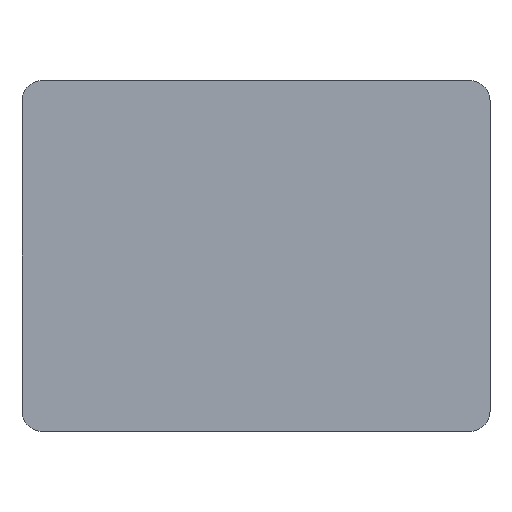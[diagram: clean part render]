
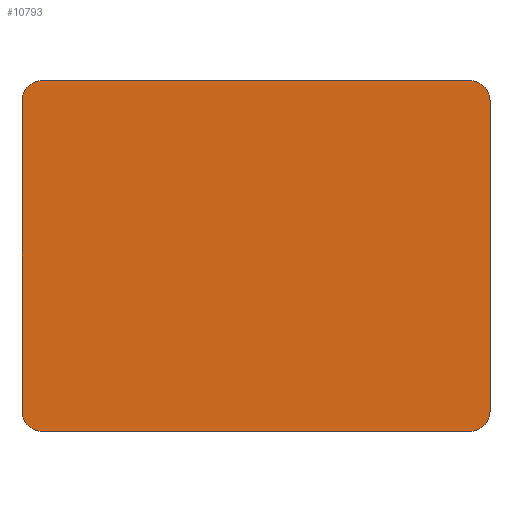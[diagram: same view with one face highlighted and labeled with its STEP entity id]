
A CAD part, left-side view. The second image highlights one B-rep face of the part: STEP entity #10793.
In plain terms, the highlighted planar face has unit normal (-1, 0, 0).
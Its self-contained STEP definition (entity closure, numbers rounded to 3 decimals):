
#1421=PLANE('',#11086);
#1988=FACE_OUTER_BOUND('',#2631,.T.);
#2631=EDGE_LOOP('',(#9993,#9994,#9995,#9996,#9997,#9998,#9999,#10000));
#3409=LINE('',#21931,#4183);
#3414=LINE('',#21960,#4188);
#3423=LINE('',#22003,#4197);
#3426=LINE('',#22012,#4200);
#4183=VECTOR('',#12247,10.);
#4188=VECTOR('',#12288,10.);
#4197=VECTOR('',#12339,10.);
#4200=VECTOR('',#12348,10.);
#4266=CIRCLE('',#11084,7.);
#4267=CIRCLE('',#11087,7.);
#4268=CIRCLE('',#11088,7.);
#4269=CIRCLE('',#11089,7.);
#5303=VERTEX_POINT('',#21925);
#5305=VERTEX_POINT('',#21929);
#5309=VERTEX_POINT('',#21954);
#5311=VERTEX_POINT('',#21958);
#5323=VERTEX_POINT('',#21998);
#5324=VERTEX_POINT('',#22002);
#5326=VERTEX_POINT('',#22009);
#5327=VERTEX_POINT('',#22011);
#6866=EDGE_CURVE('',#5305,#5303,#3409,.T.);
#6873=EDGE_CURVE('',#5311,#5309,#3414,.T.);
#6892=EDGE_CURVE('',#5309,#5323,#4266,.T.);
#6894=EDGE_CURVE('',#5323,#5324,#3423,.T.);
#6897=EDGE_CURVE('',#5303,#5311,#4267,.T.);
#6898=EDGE_CURVE('',#5326,#5305,#4268,.T.);
#6899=EDGE_CURVE('',#5327,#5326,#3426,.T.);
#6900=EDGE_CURVE('',#5324,#5327,#4269,.T.);
#9993=ORIENTED_EDGE('',*,*,#6892,.F.);
#9994=ORIENTED_EDGE('',*,*,#6873,.F.);
#9995=ORIENTED_EDGE('',*,*,#6897,.F.);
#9996=ORIENTED_EDGE('',*,*,#6866,.F.);
#9997=ORIENTED_EDGE('',*,*,#6898,.F.);
#9998=ORIENTED_EDGE('',*,*,#6899,.F.);
#9999=ORIENTED_EDGE('',*,*,#6900,.F.);
#10000=ORIENTED_EDGE('',*,*,#6894,.F.);
#10793=ADVANCED_FACE('',(#1988),#1421,.F.);
#11084=AXIS2_PLACEMENT_3D('',#21999,#12334,#12335);
#11086=AXIS2_PLACEMENT_3D('',#22007,#12342,#12343);
#11087=AXIS2_PLACEMENT_3D('',#22008,#12344,#12345);
#11088=AXIS2_PLACEMENT_3D('',#22010,#12346,#12347);
#11089=AXIS2_PLACEMENT_3D('',#22013,#12349,#12350);
#12247=DIRECTION('',(0.,0.,-1.));
#12288=DIRECTION('',(0.,1.,0.));
#12334=DIRECTION('center_axis',(1.,0.,0.));
#12335=DIRECTION('ref_axis',(0.,0.707,-0.707));
#12339=DIRECTION('',(0.,0.,1.));
#12342=DIRECTION('center_axis',(1.,0.,0.));
#12343=DIRECTION('ref_axis',(0.,1.,0.));
#12344=DIRECTION('center_axis',(1.,0.,0.));
#12345=DIRECTION('ref_axis',(0.,-0.707,-0.707));
#12346=DIRECTION('center_axis',(1.,0.,0.));
#12347=DIRECTION('ref_axis',(0.,-0.707,0.707));
#12348=DIRECTION('',(0.,-1.,0.));
#12349=DIRECTION('center_axis',(1.,0.,0.));
#12350=DIRECTION('ref_axis',(0.,0.707,0.707));
#21925=CARTESIAN_POINT('',(0.,0.,7.));
#21929=CARTESIAN_POINT('',(0.,0.,113.));
#21931=CARTESIAN_POINT('',(0.,0.,120.));
#21954=CARTESIAN_POINT('',(0.,153.,0.));
#21958=CARTESIAN_POINT('',(0.,7.,0.));
#21960=CARTESIAN_POINT('',(0.,0.,0.));
#21998=CARTESIAN_POINT('',(0.,160.,7.));
#21999=CARTESIAN_POINT('Origin',(0.,153.,7.));
#22002=CARTESIAN_POINT('',(0.,160.,113.));
#22003=CARTESIAN_POINT('',(0.,160.,0.));
#22007=CARTESIAN_POINT('Origin',(0.,80.,60.));
#22008=CARTESIAN_POINT('Origin',(0.,7.,7.));
#22009=CARTESIAN_POINT('',(0.,7.,120.));
#22010=CARTESIAN_POINT('Origin',(0.,7.,113.));
#22011=CARTESIAN_POINT('',(0.,153.,120.));
#22012=CARTESIAN_POINT('',(0.,160.,120.));
#22013=CARTESIAN_POINT('Origin',(0.,153.,113.));
